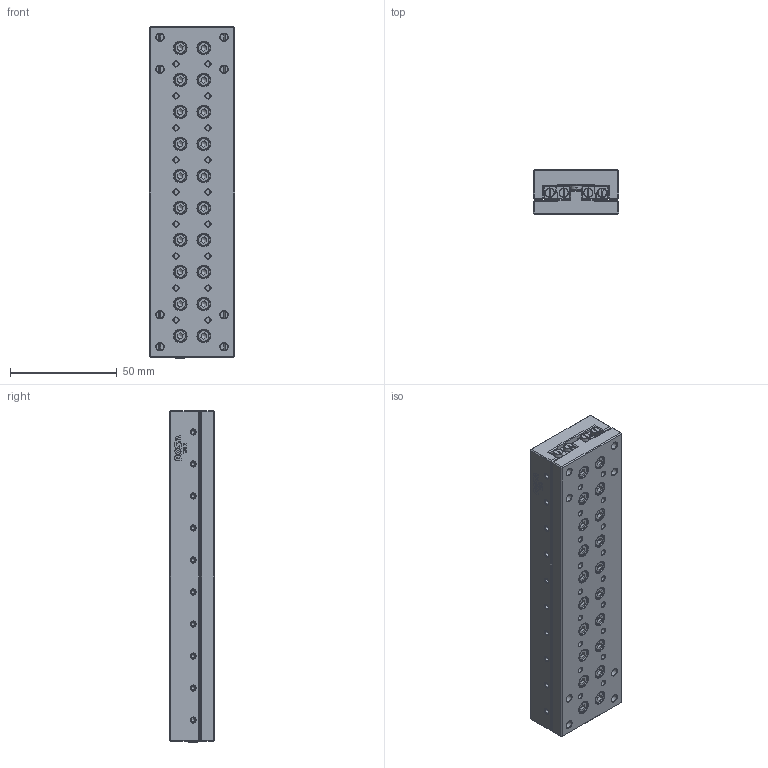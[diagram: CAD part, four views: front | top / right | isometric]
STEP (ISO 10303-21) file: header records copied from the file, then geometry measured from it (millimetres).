
FILE_DESCRIPTION(/* description */ ('Tavola TRL02 L=150 mm'),/* implementation_level */ '2;1');
FILE_NAME(/* name */ 'TRL020150-00.stp',/* time_stamp */ '2024-01-31T08:50:48+01:00',/* author */ ('ufficiotecnico'),/* organization */ (''),/* preprocessor_version */ 'ST-DEVELOPER v20',/* originating_system */ 'Autodesk Inventor 2024',/* authorisation */ '');
FILE_SCHEMA (('AUTOMOTIVE_DESIGN { 1 0 10303 214 3 1 1 }'));
Products named in the file (2): TRL020150-00; TRL020150-00_1
Assembly tree (1 placements, depth 2):
  TRL020150-00
    TRL020150-00_1
Bounding box: 40 x 21 x 155.6 mm (x, y, z)
Volume: 117392.6 mm3; surface area: 51337.9 mm2
Topology: 16 solids, 16 shells, 2469 faces, 6399 edges, 4138 vertices
Faces by surface type: plane 1563, cylinder 357, cone 303, bspline 156, torus 90
Full cylindrical faces by diameter (mm): 0.774 x4, 1.039 x1, 2 x8, 2.128 x4, 2.459 x58, 2.856 x1, 3 x40, 3.5 x8, 4.4 x40, 5.5 x40, 6 x48
Entity records: 77545 total; most frequent: CARTESIAN_POINT 16187, ORIENTED_EDGE 12698, DIRECTION 11889, EDGE_CURVE 6349, VERTEX_POINT 4138, AXIS2_PLACEMENT_3D 4024, LINE 3841, VECTOR 3841
